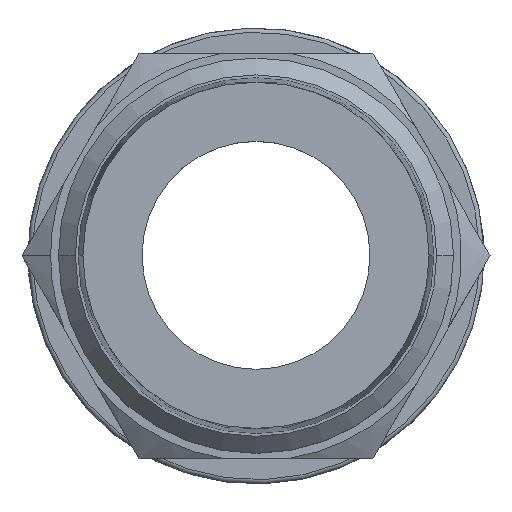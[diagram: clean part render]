
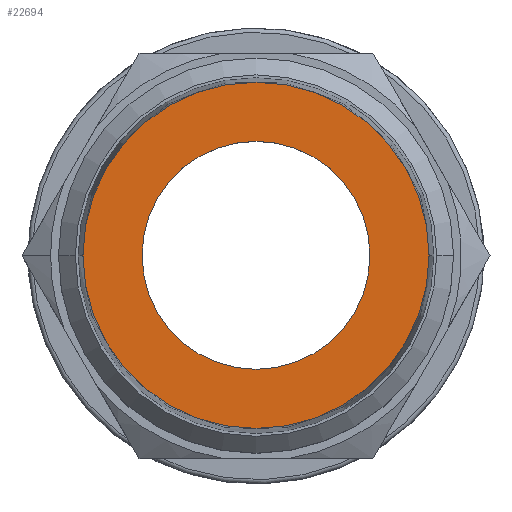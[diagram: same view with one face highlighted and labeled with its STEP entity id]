
A CAD part, top view. The second image highlights one B-rep face of the part: STEP entity #22694.
In plain terms, the highlighted planar face has unit normal (0, 0, 1).
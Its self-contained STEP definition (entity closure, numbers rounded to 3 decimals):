
#419 = CIRCLE ( 'NONE', #424, 13.5 ) ;
#424 = AXIS2_PLACEMENT_3D ( 'NONE', #12039, #12041, #12043 ) ;
#436 = CIRCLE ( 'NONE', #440, 20.5 ) ;
#440 = AXIS2_PLACEMENT_3D ( 'NONE', #12112, #12114, #12115 ) ;
#2951 = EDGE_CURVE ( 'NONE', #5014, #5015, #419, .T. ) ;
#2975 = EDGE_CURVE ( 'NONE', #5011, #5027, #436, .T. ) ;
#4288 = EDGE_CURVE ( 'NONE', #5027, #5011, #15583, .T. ) ;
#4290 = EDGE_CURVE ( 'NONE', #5015, #5014, #15607, .T. ) ;
#5011 = VERTEX_POINT ( 'NONE', #16787 ) ;
#5014 = VERTEX_POINT ( 'NONE', #16790 ) ;
#5015 = VERTEX_POINT ( 'NONE', #16791 ) ;
#5027 = VERTEX_POINT ( 'NONE', #16803 ) ;
#6476 = ORIENTED_EDGE ( 'NONE', *, *, #4290, .T. ) ;
#6477 = ORIENTED_EDGE ( 'NONE', *, *, #2951, .T. ) ;
#6478 = ORIENTED_EDGE ( 'NONE', *, *, #4288, .T. ) ;
#6479 = ORIENTED_EDGE ( 'NONE', *, *, #2975, .T. ) ;
#12039 = CARTESIAN_POINT ( 'NONE',  ( 0., 0., 41. ) ) ;
#12041 = DIRECTION ( 'NONE',  ( 0., 0., -1. ) ) ;
#12043 = DIRECTION ( 'NONE',  ( -1., 0., 0. ) ) ;
#12112 = CARTESIAN_POINT ( 'NONE',  ( 0., 0., 41. ) ) ;
#12114 = DIRECTION ( 'NONE',  ( 0., 0., 1. ) ) ;
#12115 = DIRECTION ( 'NONE',  ( 1., 0., 0. ) ) ;
#15276 = CARTESIAN_POINT ( 'NONE',  ( 0., 0., 41. ) ) ;
#15277 = DIRECTION ( 'NONE',  ( 0., 0., 1. ) ) ;
#15278 = DIRECTION ( 'NONE',  ( 1., 0., 0. ) ) ;
#15279 = CARTESIAN_POINT ( 'NONE',  ( 0., 0., 41. ) ) ;
#15280 = DIRECTION ( 'NONE',  ( 0., 0., -1. ) ) ;
#15281 = DIRECTION ( 'NONE',  ( -1., 0., 0. ) ) ;
#15583 = CIRCLE ( 'NONE', #15608, 20.5 ) ;
#15607 = CIRCLE ( 'NONE', #15610, 13.5 ) ;
#15608 = AXIS2_PLACEMENT_3D ( 'NONE', #15276, #15277, #15278 ) ;
#15610 = AXIS2_PLACEMENT_3D ( 'NONE', #15279, #15280, #15281 ) ;
#16787 = CARTESIAN_POINT ( 'NONE',  ( -20.5, 0., 41. ) ) ;
#16790 = CARTESIAN_POINT ( 'NONE',  ( 13.5, 0., 41. ) ) ;
#16791 = CARTESIAN_POINT ( 'NONE',  ( -13.5, 0., 41. ) ) ;
#16803 = CARTESIAN_POINT ( 'NONE',  ( 20.5, 0., 41. ) ) ;
#19861 = AXIS2_PLACEMENT_3D ( 'NONE', #20174, #20181, #20182 ) ;
#20174 = CARTESIAN_POINT ( 'NONE',  ( 13.856, -24., 41. ) ) ;
#20177 = FACE_BOUND ( 'NONE', #24355, .T. ) ;
#20178 = FACE_OUTER_BOUND ( 'NONE', #24351, .T. ) ;
#20179 = PLANE ( 'NONE',  #19861 ) ;
#20181 = DIRECTION ( 'NONE',  ( 0., 0., -1. ) ) ;
#20182 = DIRECTION ( 'NONE',  ( -1., 0., 0. ) ) ;
#22694 = ADVANCED_FACE ( 'NONE', ( #20177, #20178 ), #20179, .F. ) ;
#24351 = EDGE_LOOP ( 'NONE', ( #6478, #6479 ) ) ;
#24355 = EDGE_LOOP ( 'NONE', ( #6476, #6477 ) ) ;
